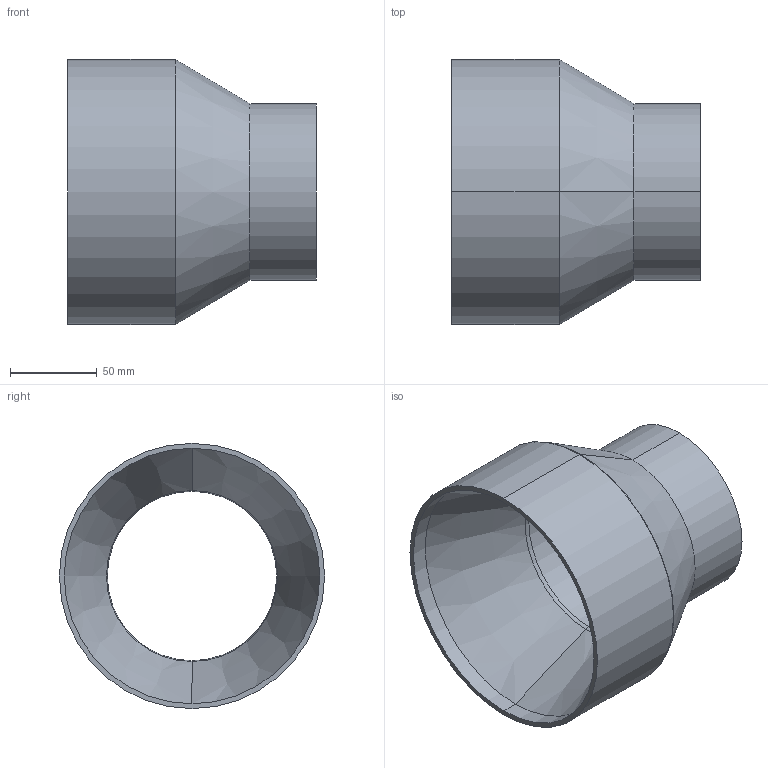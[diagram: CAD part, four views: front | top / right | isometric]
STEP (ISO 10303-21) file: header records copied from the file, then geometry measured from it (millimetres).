
FILE_DESCRIPTION (( 'STEP AP214' ), '1' );
FILE_NAME ('TE31SWW6L6.0x4.0-...STEP', '2016-05-29T10:15:19', ( 'eran' ), ( '' ), 'SwSTEP 2.0', 'SolidWorks 2016', '' );
FILE_SCHEMA (( 'AUTOMOTIVE_DESIGN' ));
Length unit declared in the file: millimetre
Products named in the file (1): TE31SWW6L6.0x4.0-..
Bounding box: 142.88 x 152.4 x 152.4 mm (x, y, z)
Volume: 576424.5 mm3; surface area: 115292.4 mm2
Topology: 1 solids, 1 shells, 18 faces, 36 edges, 20 vertices
Faces by surface type: cylinder 8, torus 4, cone 4, plane 2
Entity records: 506 total; most frequent: DIRECTION 98, CARTESIAN_POINT 75, ORIENTED_EDGE 72, AXIS2_PLACEMENT_3D 43, EDGE_CURVE 36, CIRCLE 24, EDGE_LOOP 20, VERTEX_POINT 20
